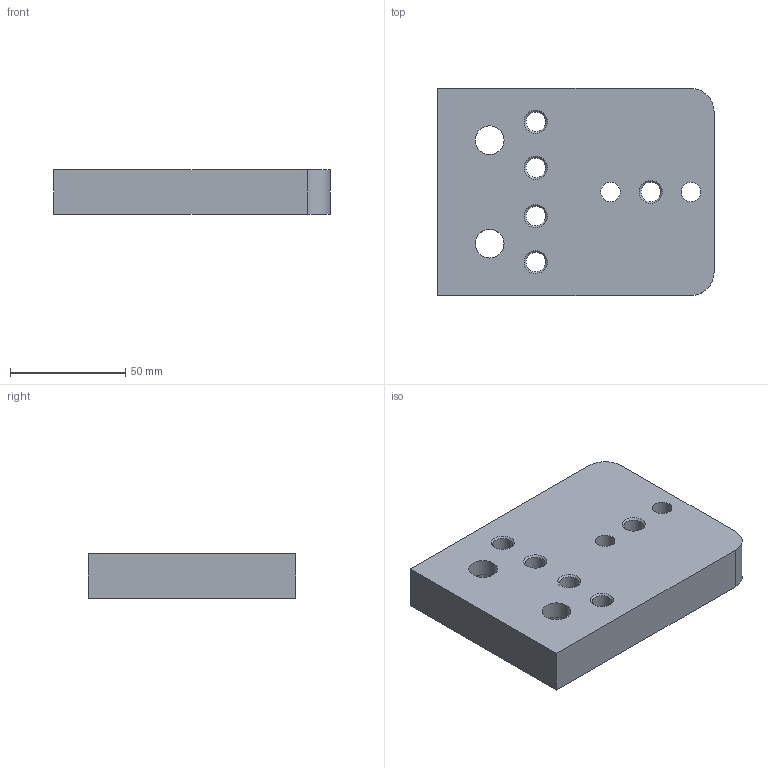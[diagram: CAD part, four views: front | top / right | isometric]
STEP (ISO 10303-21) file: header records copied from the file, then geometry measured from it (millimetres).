
FILE_DESCRIPTION(/* description */ (''),/* implementation_level */ '2;1');
FILE_NAME(/* name */ 'TRAYLOADER.93.stp',/* time_stamp */ '2025-05-12T17:11:01+02:00',/* author */ (''),/* organization */ (''),/* preprocessor_version */ 'ST-DEVELOPER v19.4',/* originating_system */ 'SIEMENS PLM Software NX2306.5001',/* authorisation */ '');
FILE_SCHEMA (('AP203_CONFIGURATION_CONTROLLED_3D_DESIGN_OF_MECHANICAL_PARTS_AND_ASSEMBLIES_MIM_LF { 1 0 10303 403 2 1 2}'));
Length unit declared in the file: millimetre
Products named in the file (1): TRAYLOADER.93_objects
Bounding box: 120 x 90 x 19.5 mm (x, y, z)
Volume: 191737.3 mm3; surface area: 34084.6 mm2
Topology: 1 solids, 1 shells, 35 faces, 82 edges, 53 vertices
Faces by surface type: cylinder 15, plane 10, cone 10
Full cylindrical faces by diameter (mm): 8.5 x7, 12.5 x2, 14 x2, 19 x2
Entity records: 978 total; most frequent: DIRECTION 166, CARTESIAN_POINT 138, ORIENTED_EDGE 108, EDGE_LOOP 80, AXIS2_PLACEMENT_3D 76, FACE_BOUND 74, EDGE_CURVE 54, VERTEX_POINT 48
